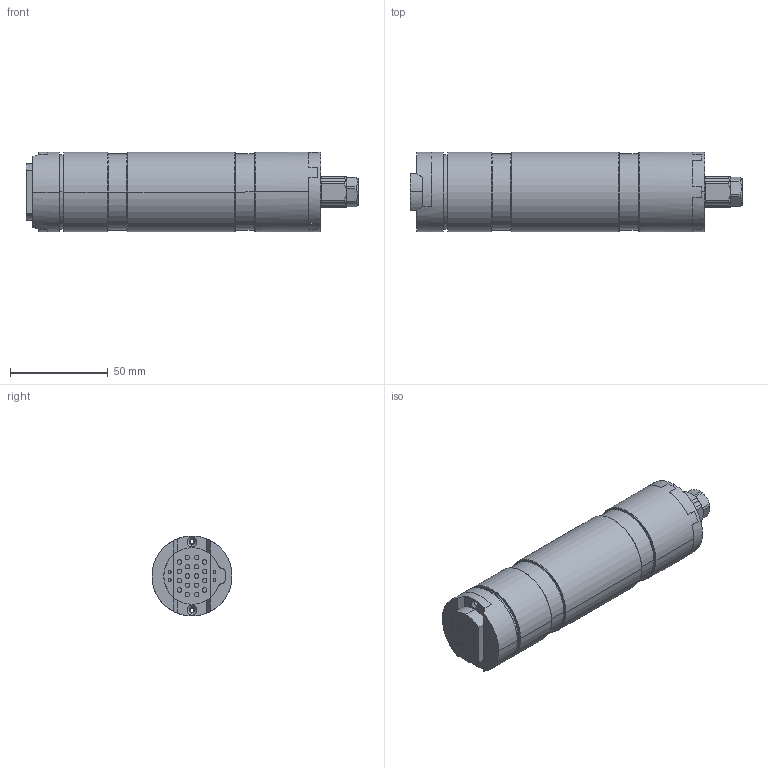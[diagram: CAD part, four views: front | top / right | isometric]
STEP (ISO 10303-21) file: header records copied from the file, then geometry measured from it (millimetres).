
FILE_DESCRIPTION (( 'STEP AP214' ), '1' );
FILE_NAME ('ANB_pH_SENSOR.STEP', '2026-06-28T04:13:35', ( '' ), ( '' ), 'SwSTEP 2.0', 'SolidWorks 2024', '' );
FILE_SCHEMA (( 'AUTOMOTIVE_DESIGN' ));
Length unit declared in the file: millimetre
Products named in the file (1): ANB_pH_SENSOR
Bounding box: 170.25 x 41 x 41 mm (x, y, z)
Surface area: 27270.3 mm2 (no closed solid volume)
Topology: 0 solids, 28 shells, 199 faces, 677 edges, 508 vertices
Faces by surface type: plane 95, cylinder 56, cone 26, torus 22
Entity records: 10094 total; most frequent: CARTESIAN_POINT 1865, DIRECTION 1390, ORIENTED_EDGE 1064, EDGE_CURVE 677, AXIS2_PLACEMENT_3D 587, VERTEX_POINT 508, CIRCLE 387, EDGE_LOOP 245
